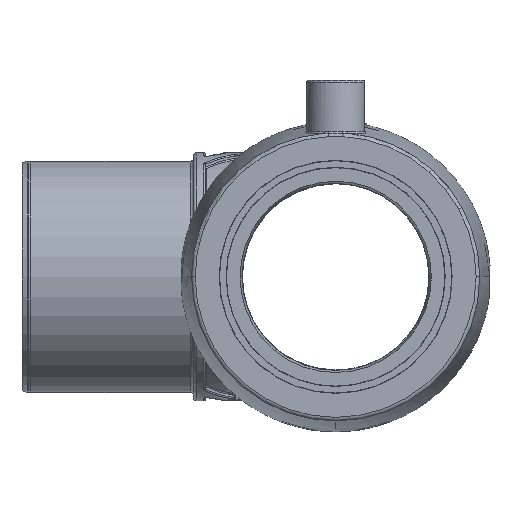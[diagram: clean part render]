
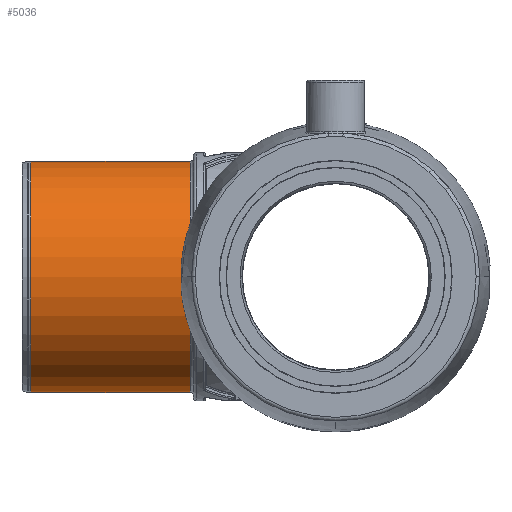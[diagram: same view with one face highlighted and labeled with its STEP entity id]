
A CAD part, left-side view. The second image highlights one B-rep face of the part: STEP entity #5036.
In plain terms, the highlighted cylindrical face has radius 31.7 mm (diameter 63.4 mm), a partial arc.
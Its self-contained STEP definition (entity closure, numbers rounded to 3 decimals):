
#929 = VECTOR ( 'NONE', #125346, 1000. ) ;
#5036 = ADVANCED_FACE ( 'NONE', ( #137233 ), #50345, .T. ) ;
#17579 = DIRECTION ( 'NONE',  ( 0., -1., 0. ) ) ;
#18541 = CARTESIAN_POINT ( 'NONE',  ( 0., 83.651, 0. ) ) ;
#22220 = CIRCLE ( 'NONE', #132487, 31.7 ) ;
#22427 = DIRECTION ( 'NONE',  ( 0., -1., 0. ) ) ;
#24661 = ORIENTED_EDGE ( 'NONE', *, *, #184951, .T. ) ;
#26867 = VECTOR ( 'NONE', #22427, 1000. ) ;
#29441 = CARTESIAN_POINT ( 'NONE',  ( 0., 39.8, -31.7 ) ) ;
#36389 = EDGE_LOOP ( 'NONE', ( #97013, #165912, #103837, #24661 ) ) ;
#40846 = CARTESIAN_POINT ( 'NONE',  ( 0., 83.651, 31.7 ) ) ;
#50345 = CYLINDRICAL_SURFACE ( 'NONE', #123991, 31.7 ) ;
#61370 = VERTEX_POINT ( 'NONE', #29441 ) ;
#65010 = EDGE_CURVE ( 'NONE', #156507, #114961, #88791, .T. ) ;
#72872 = EDGE_CURVE ( 'NONE', #156507, #121916, #22220, .T. ) ;
#75844 = CARTESIAN_POINT ( 'NONE',  ( 0., 86., 0. ) ) ;
#80581 = CIRCLE ( 'NONE', #112202, 31.7 ) ;
#88791 = LINE ( 'NONE', #180281, #26867 ) ;
#97013 = ORIENTED_EDGE ( 'NONE', *, *, #65010, .F. ) ;
#102464 = CARTESIAN_POINT ( 'NONE',  ( 0., 39.8, 31.7 ) ) ;
#103837 = ORIENTED_EDGE ( 'NONE', *, *, #166842, .T. ) ;
#112202 = AXIS2_PLACEMENT_3D ( 'NONE', #115628, #189031, #189664 ) ;
#114961 = VERTEX_POINT ( 'NONE', #102464 ) ;
#115628 = CARTESIAN_POINT ( 'NONE',  ( 0., 39.8, 0. ) ) ;
#119733 = CARTESIAN_POINT ( 'NONE',  ( 0., 86., -31.7 ) ) ;
#120044 = LINE ( 'NONE', #119733, #929 ) ;
#120797 = DIRECTION ( 'NONE',  ( 0., -1., 0. ) ) ;
#121916 = VERTEX_POINT ( 'NONE', #172428 ) ;
#123991 = AXIS2_PLACEMENT_3D ( 'NONE', #75844, #17579, #163295 ) ;
#125346 = DIRECTION ( 'NONE',  ( 0., -1., 0. ) ) ;
#132487 = AXIS2_PLACEMENT_3D ( 'NONE', #18541, #120797, #177613 ) ;
#137233 = FACE_OUTER_BOUND ( 'NONE', #36389, .T. ) ;
#156507 = VERTEX_POINT ( 'NONE', #40846 ) ;
#163295 = DIRECTION ( 'NONE',  ( 0., 0., -1. ) ) ;
#165912 = ORIENTED_EDGE ( 'NONE', *, *, #72872, .T. ) ;
#166842 = EDGE_CURVE ( 'NONE', #121916, #61370, #120044, .T. ) ;
#172428 = CARTESIAN_POINT ( 'NONE',  ( 0., 83.651, -31.7 ) ) ;
#177613 = DIRECTION ( 'NONE',  ( 0., 0., 1. ) ) ;
#180281 = CARTESIAN_POINT ( 'NONE',  ( 0., 86., 31.7 ) ) ;
#184951 = EDGE_CURVE ( 'NONE', #61370, #114961, #80581, .T. ) ;
#189031 = DIRECTION ( 'NONE',  ( 0., 1., 0. ) ) ;
#189664 = DIRECTION ( 'NONE',  ( 0., 0., 1. ) ) ;
